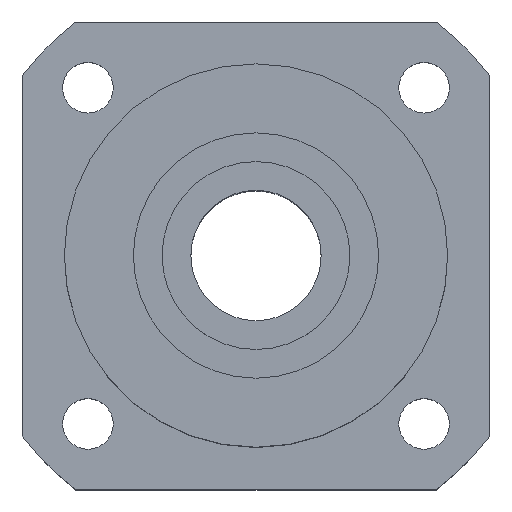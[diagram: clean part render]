
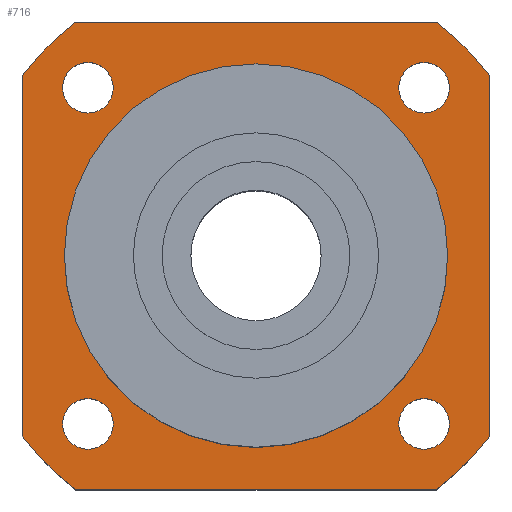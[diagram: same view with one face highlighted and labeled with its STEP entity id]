
A CAD part, top view. The second image highlights one B-rep face of the part: STEP entity #716.
In plain terms, the highlighted planar face has unit normal (0, 0, 1).
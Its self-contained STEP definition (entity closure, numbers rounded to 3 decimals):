
#100=LINE($,#1340,#132);
#103=LINE($,#1348,#135);
#106=LINE($,#1356,#138);
#109=LINE($,#1363,#141);
#132=VECTOR($,#1000,46.989);
#135=VECTOR($,#1009,46.989);
#138=VECTOR($,#1018,46.989);
#141=VECTOR($,#1027,46.989);
#190=FACE_BOUND($,#278,.T.);
#191=FACE_BOUND($,#279,.T.);
#192=FACE_BOUND($,#280,.T.);
#193=FACE_BOUND($,#281,.T.);
#194=FACE_BOUND($,#282,.T.);
#195=FACE_BOUND($,#283,.T.);
#278=EDGE_LOOP($,(#637));
#279=EDGE_LOOP($,(#638));
#280=EDGE_LOOP($,(#639));
#281=EDGE_LOOP($,(#640));
#282=EDGE_LOOP($,(#641));
#283=EDGE_LOOP($,(#642,#643,#644,#645,#646,#647,#648,#649));
#320=CIRCLE($,#788,3.3);
#321=CIRCLE($,#790,3.3);
#322=CIRCLE($,#792,3.3);
#323=CIRCLE($,#794,3.3);
#325=CIRCLE($,#797,25.);
#326=CIRCLE($,#800,38.5);
#327=CIRCLE($,#803,38.5);
#328=CIRCLE($,#806,38.5);
#329=CIRCLE($,#809,38.5);
#384=VERTEX_POINT($,#1315);
#385=VERTEX_POINT($,#1318);
#386=VERTEX_POINT($,#1321);
#387=VERTEX_POINT($,#1324);
#389=VERTEX_POINT($,#1329);
#390=VERTEX_POINT($,#1333);
#391=VERTEX_POINT($,#1335);
#392=VERTEX_POINT($,#1339);
#393=VERTEX_POINT($,#1343);
#394=VERTEX_POINT($,#1347);
#395=VERTEX_POINT($,#1351);
#396=VERTEX_POINT($,#1355);
#397=VERTEX_POINT($,#1359);
#460=EDGE_CURVE($,#384,#384,#320,.T.);
#461=EDGE_CURVE($,#385,#385,#321,.T.);
#462=EDGE_CURVE($,#386,#386,#322,.T.);
#463=EDGE_CURVE($,#387,#387,#323,.T.);
#465=EDGE_CURVE($,#389,#389,#325,.T.);
#467=EDGE_CURVE($,#391,#390,#326,.T.);
#469=EDGE_CURVE($,#392,#391,#100,.T.);
#471=EDGE_CURVE($,#393,#392,#327,.T.);
#473=EDGE_CURVE($,#394,#393,#103,.T.);
#475=EDGE_CURVE($,#395,#394,#328,.T.);
#477=EDGE_CURVE($,#396,#395,#106,.T.);
#479=EDGE_CURVE($,#397,#396,#329,.T.);
#481=EDGE_CURVE($,#390,#397,#109,.T.);
#637=ORIENTED_EDGE($,*,*,#460,.T.);
#638=ORIENTED_EDGE($,*,*,#461,.T.);
#639=ORIENTED_EDGE($,*,*,#462,.T.);
#640=ORIENTED_EDGE($,*,*,#463,.T.);
#641=ORIENTED_EDGE($,*,*,#465,.T.);
#642=ORIENTED_EDGE($,*,*,#481,.T.);
#643=ORIENTED_EDGE($,*,*,#479,.T.);
#644=ORIENTED_EDGE($,*,*,#477,.T.);
#645=ORIENTED_EDGE($,*,*,#475,.T.);
#646=ORIENTED_EDGE($,*,*,#473,.T.);
#647=ORIENTED_EDGE($,*,*,#471,.T.);
#648=ORIENTED_EDGE($,*,*,#469,.T.);
#649=ORIENTED_EDGE($,*,*,#467,.T.);
#670=PLANE($,#811);
#716=ADVANCED_FACE($,(#190,#191,#192,#193,#194,#195),#670,.T.);
#788=AXIS2_PLACEMENT_3D($,#1316,#970,#971);
#790=AXIS2_PLACEMENT_3D($,#1319,#974,#975);
#792=AXIS2_PLACEMENT_3D($,#1322,#978,#979);
#794=AXIS2_PLACEMENT_3D($,#1325,#982,#983);
#797=AXIS2_PLACEMENT_3D($,#1330,#988,#989);
#800=AXIS2_PLACEMENT_3D($,#1336,#995,#996);
#803=AXIS2_PLACEMENT_3D($,#1344,#1004,#1005);
#806=AXIS2_PLACEMENT_3D($,#1352,#1013,#1014);
#809=AXIS2_PLACEMENT_3D($,#1360,#1022,#1023);
#811=AXIS2_PLACEMENT_3D($,#1364,#1028,#1029);
#970=DIRECTION('center_axis',(0.,0.,-1.));
#971=DIRECTION('ref_axis',(-1.,0.,0.));
#974=DIRECTION('center_axis',(0.,0.,-1.));
#975=DIRECTION('ref_axis',(-1.,0.,0.));
#978=DIRECTION('center_axis',(0.,0.,-1.));
#979=DIRECTION('ref_axis',(-1.,0.,0.));
#982=DIRECTION('center_axis',(0.,0.,-1.));
#983=DIRECTION('ref_axis',(-1.,0.,0.));
#988=DIRECTION('center_axis',(0.,0.,-1.));
#989=DIRECTION('ref_axis',(-1.,0.,0.));
#995=DIRECTION('center_axis',(0.,0.,1.));
#996=DIRECTION('ref_axis',(-0.792,-0.61,0.));
#1000=DIRECTION($,(0.,1.,0.));
#1004=DIRECTION('center_axis',(0.,0.,1.));
#1005=DIRECTION('ref_axis',(-0.61,0.792,0.));
#1009=DIRECTION($,(1.,0.,0.));
#1013=DIRECTION('center_axis',(0.,0.,1.));
#1014=DIRECTION('ref_axis',(0.792,0.61,0.));
#1018=DIRECTION($,(0.,-1.,0.));
#1022=DIRECTION('center_axis',(0.,0.,1.));
#1023=DIRECTION('ref_axis',(0.61,-0.792,0.));
#1027=DIRECTION($,(-1.,0.,0.));
#1028=DIRECTION('center_axis',(0.,0.,1.));
#1029=DIRECTION('ref_axis',(1.,0.,0.));
#1315=CARTESIAN_POINT('',(-18.62,-21.92,12.));
#1316=CARTESIAN_POINT('Origin',(-21.92,-21.92,12.));
#1318=CARTESIAN_POINT('',(25.22,21.92,12.));
#1319=CARTESIAN_POINT('Origin',(21.92,21.92,12.));
#1321=CARTESIAN_POINT('',(25.22,-21.92,12.));
#1322=CARTESIAN_POINT('Origin',(21.92,-21.92,12.));
#1324=CARTESIAN_POINT('',(-18.62,21.92,12.));
#1325=CARTESIAN_POINT('Origin',(-21.92,21.92,12.));
#1329=CARTESIAN_POINT('',(25.,0.,12.));
#1330=CARTESIAN_POINT('Origin',(0.,0.,12.));
#1333=CARTESIAN_POINT('',(23.495,30.5,12.));
#1335=CARTESIAN_POINT('',(30.5,23.495,12.));
#1336=CARTESIAN_POINT('Origin',(0.,0.,12.));
#1339=CARTESIAN_POINT('',(30.5,-23.495,12.));
#1340=CARTESIAN_POINT($,(30.5,23.495,12.));
#1343=CARTESIAN_POINT('',(23.495,-30.5,12.));
#1344=CARTESIAN_POINT('Origin',(0.,0.,12.));
#1347=CARTESIAN_POINT('',(-23.495,-30.5,12.));
#1348=CARTESIAN_POINT($,(23.495,-30.5,12.));
#1351=CARTESIAN_POINT('',(-30.5,-23.495,12.));
#1352=CARTESIAN_POINT('Origin',(0.,0.,12.));
#1355=CARTESIAN_POINT('',(-30.5,23.495,12.));
#1356=CARTESIAN_POINT($,(-30.5,-23.495,12.));
#1359=CARTESIAN_POINT('',(-23.495,30.5,12.));
#1360=CARTESIAN_POINT('Origin',(0.,0.,12.));
#1363=CARTESIAN_POINT($,(-23.495,30.5,12.));
#1364=CARTESIAN_POINT('Origin',(0.,0.,
12.));
